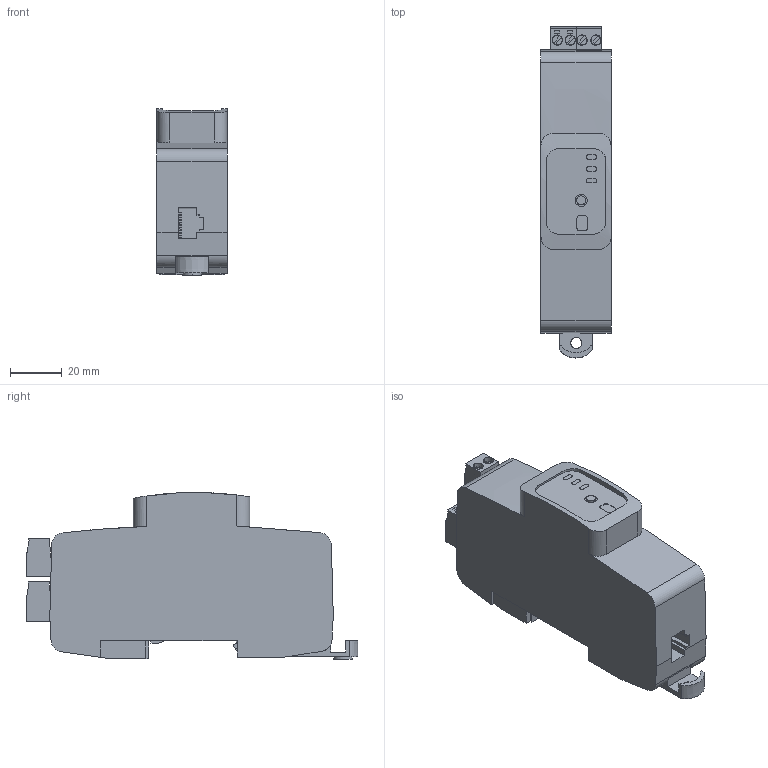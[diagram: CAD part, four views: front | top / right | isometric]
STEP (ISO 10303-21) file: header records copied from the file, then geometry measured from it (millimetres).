
FILE_DESCRIPTION((''),'2;1');
FILE_NAME('TME58201-3D_ASM','2025-10-07T16:10:26',('SESA834227'),('Schneider-Electric'),'CREO PARAMETRIC BY PTC INC, 2022484','CREO PARAMETRIC BY PTC INC, 2022484','');
FILE_SCHEMA(('AP242_MANAGED_MODEL_BASED_3D_ENGINEERING_MIM_LF { 1 0 10303 442 1 1 4 }'));
Length unit declared in the file: millimetre
Products named in the file (3): TME58201-3D; TME58202_1SIMPLIFIED; TME58201-3D_ASM
Assembly tree (2 placements, depth 2):
  TME58201-3D_ASM
    TME58201-3D
    TME58202_1SIMPLIFIED
Bounding box: 27.24 x 128.88 x 64.85 mm (x, y, z)
Volume: 155956.2 mm3; surface area: 26272.4 mm2
Topology: 2 solids, 2 shells, 364 faces, 969 edges, 646 vertices
Faces by surface type: plane 289, cylinder 51, extrusion 24
Entity records: 15552 total; most frequent: CARTESIAN_POINT 3586, ORIENTED_EDGE 1938, DIRECTION 1763, EDGE_CURVE 969, VECTOR 815, LINE 791, VERTEX_POINT 646, PRESENTATION_STYLE_ASSIGNMENT 488
